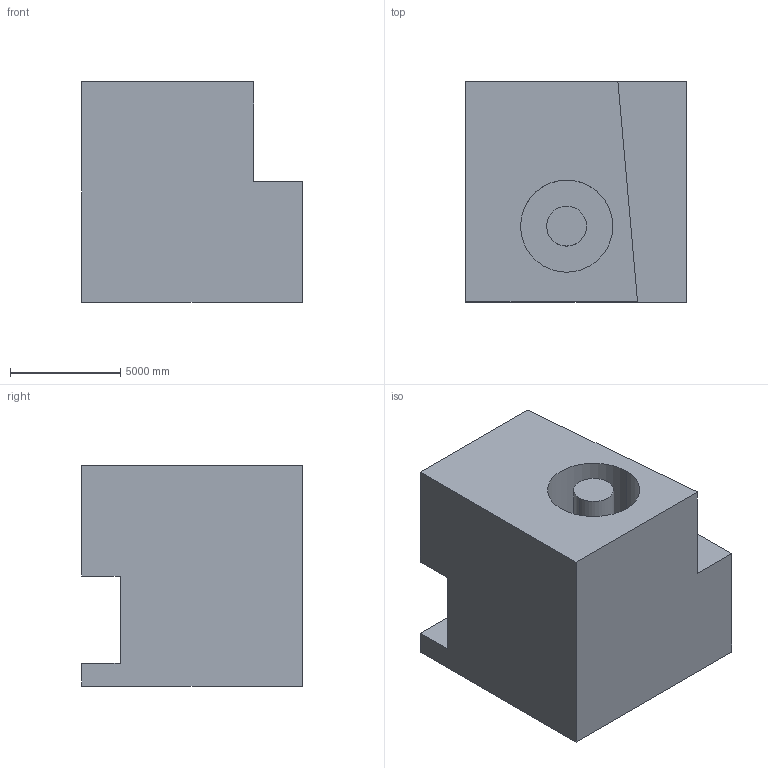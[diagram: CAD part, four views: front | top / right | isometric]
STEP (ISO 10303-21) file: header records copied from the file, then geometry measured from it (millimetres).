
FILE_DESCRIPTION (( 'STEP AP203' ), '1' );
FILE_NAME ('29.STEP', '2022-09-01T11:40:00', ( 'user' ), ( '' ), 'SwSTEP 2.0', 'SolidWorks 2021', '' );
FILE_SCHEMA (( 'CONFIG_CONTROL_DESIGN' ));
Length unit declared in the file: centimetre
Products named in the file (1): 29
Bounding box: 10000 x 10000 x 10000 mm (x, y, z)
Volume: 779731432867.3 mm3; surface area: 650097597.3 mm2
Topology: 1 solids, 1 shells, 18 faces, 42 edges, 28 vertices
Faces by surface type: plane 14, cylinder 4
Entity records: 591 total; most frequent: CARTESIAN_POINT 89, DIRECTION 88, ORIENTED_EDGE 84, EDGE_CURVE 42, VECTOR 34, LINE 34, VERTEX_POINT 28, AXIS2_PLACEMENT_3D 27
